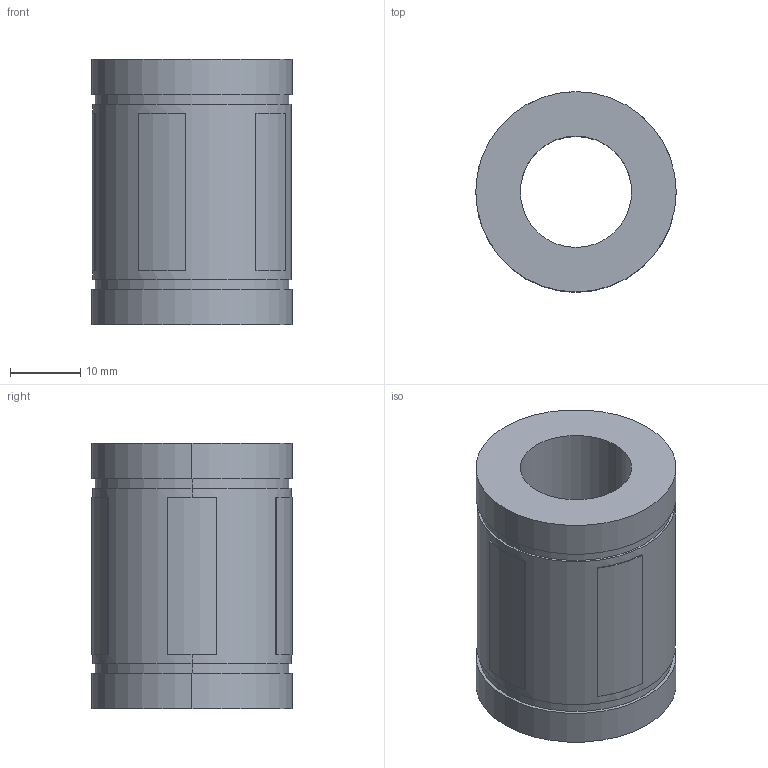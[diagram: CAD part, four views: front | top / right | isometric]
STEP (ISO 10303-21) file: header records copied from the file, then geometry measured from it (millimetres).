
FILE_DESCRIPTION((''),'2;1');
FILE_NAME('C:\Documents and Settings\ｿﾀﾀ蠑ｷ1\ｹﾙﾅﾁ ﾈｭｸ饅\ｺﾎﾇｰﾆﾄﾀﾏ\ﾁｦﾇｰ\LMBS__UU\LMBS10UU.stp','2005-06-15T13:58:48',('ｿﾀﾀ蠑ｷ1'),(''),'Autodesk Inventor 9','Autodesk Inventor 9','');
FILE_SCHEMA(('AUTOMOTIVE_DESIGN { 1 0 10303 214 1 1 1 1 }'));
Length unit declared in the file: millimetre
Products named in the file (1): LMBS__
Bounding box: 28.57 x 28.57 x 37.85 mm (x, y, z)
Volume: 16463.2 mm3; surface area: 6331 mm2
Topology: 1 solids, 1 shells, 43 faces, 99 edges, 66 vertices
Faces by surface type: plane 24, cylinder 15, bspline 4
Entity records: 1292 total; most frequent: CARTESIAN_POINT 249, DIRECTION 225, ORIENTED_EDGE 198, EDGE_CURVE 99, AXIS2_PLACEMENT_3D 86, VERTEX_POINT 66, VECTOR 53, LINE 53
